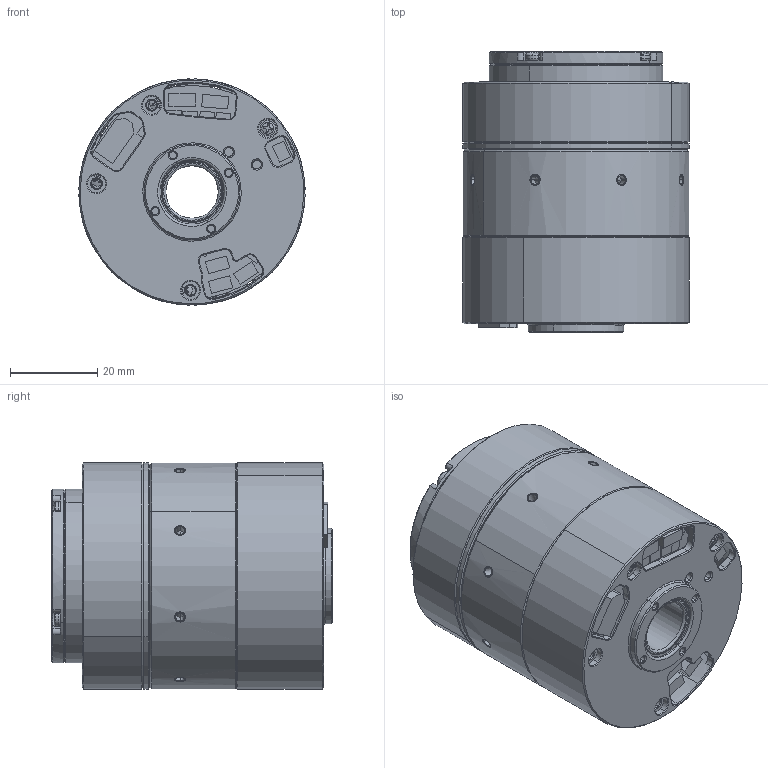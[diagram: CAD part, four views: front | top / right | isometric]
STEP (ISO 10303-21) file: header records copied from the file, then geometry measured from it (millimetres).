
FILE_DESCRIPTION (( 'STEP AP203' ), '1' );
FILE_NAME ('CRA-RI40-52-PRO-XX-2E-EC.STEP', '2024-08-26T05:15:20', ( '' ), ( '' ), 'SwSTEP 2.0', 'SolidWorks 2021', '' );
FILE_SCHEMA (( 'CONFIG_CONTROL_DESIGN' ));
Length unit declared in the file: millimetre
Products named in the file (1): CRA-RI40-52-PRO-XX-2E-EC
Bounding box: 51.95 x 64.5 x 51.95 mm (x, y, z)
Surface area: 29551.3 mm2 (no closed solid volume)
Topology: 0 solids, 59 shells, 862 faces, 2853 edges, 2019 vertices
Faces by surface type: plane 310, cylinder 304, cone 213, torus 26, sphere 8, bspline 1
Entity records: 33196 total; most frequent: CARTESIAN_POINT 7882, DIRECTION 5606, ORIENTED_EDGE 4556, EDGE_CURVE 2853, AXIS2_PLACEMENT_3D 2070, VERTEX_POINT 2019, VECTOR 1466, LINE 1466
